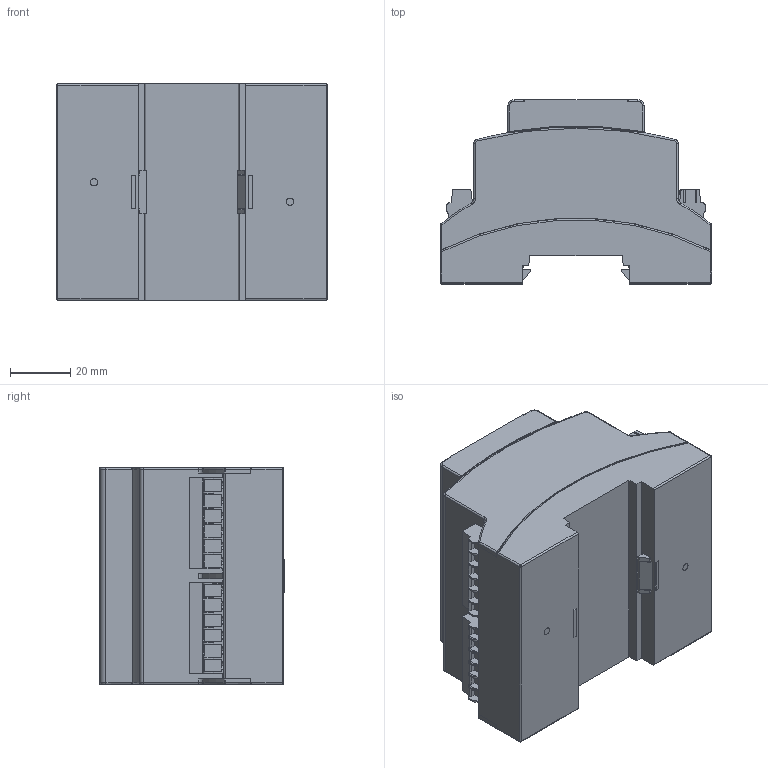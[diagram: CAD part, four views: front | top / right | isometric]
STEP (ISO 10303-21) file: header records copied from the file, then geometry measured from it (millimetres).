
FILE_DESCRIPTION(('STEP AP214'),'1');
FILE_NAME('burster_9236-v200_9621mmosq3n8vh0mte8muwyeg.stp','2017-04-21T16:28:46',('TraceParts'),('TraceParts S.A.'),'Spatial InterOp 3D',' ',' ');
FILE_SCHEMA(('automotive_design'));
Length unit declared in the file: millimetre
Products named in the file (1): burster_9236-v200_9621mmosq3n8vh0mte8muwyeg
Bounding box: 89.7 x 60.9 x 71.6 mm (x, y, z)
Volume: 251675.2 mm3; surface area: 51180.5 mm2
Topology: 1 solids, 2 shells, 1089 faces, 3093 edges, 2003 vertices
Faces by surface type: plane 881, cylinder 158, torus 22, cone 20, sphere 8
Entity records: 44324 total; most frequent: CARTESIAN_POINT 7042, ORIENTED_EDGE 6170, DIRECTION 5676, EDGE_CURVE 3085, LINE 2592, VECTOR 2592, VERTEX_POINT 2003, AXIS2_PLACEMENT_3D 1542
